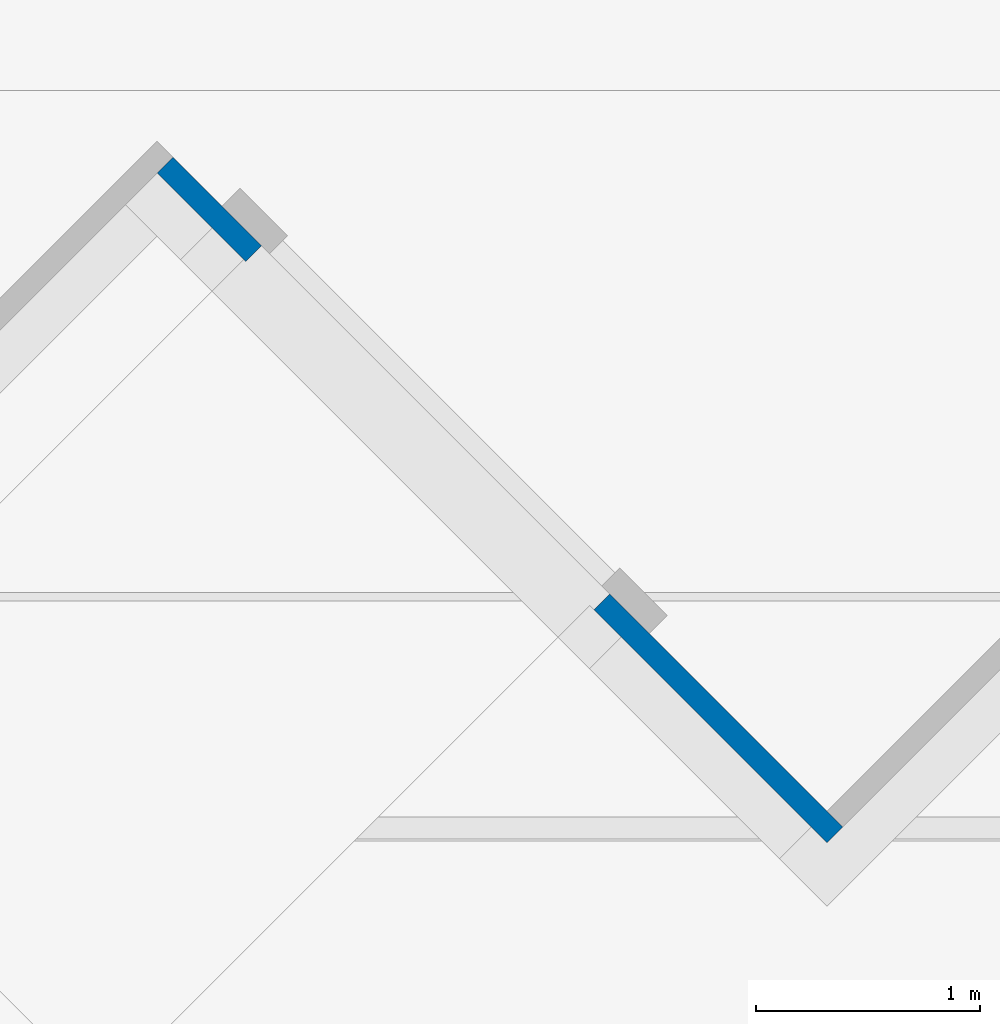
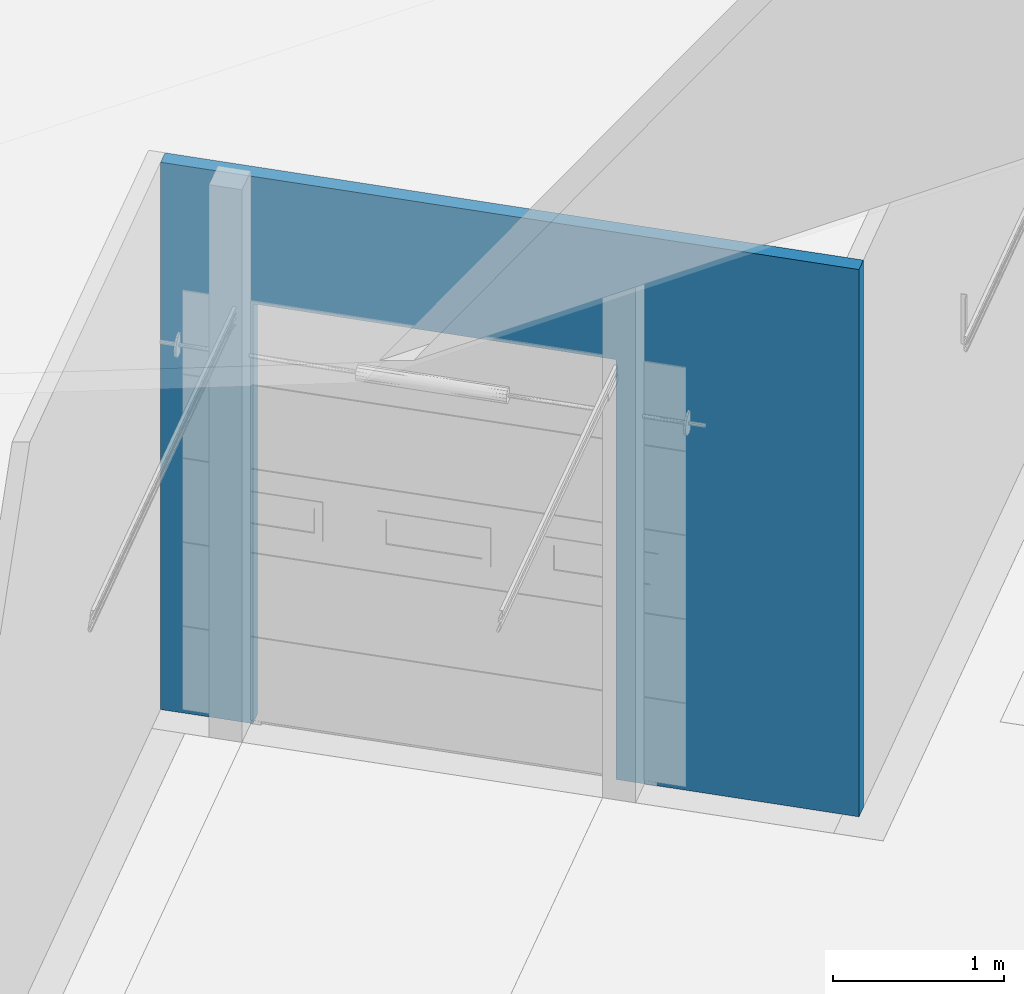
# One storey, part 32 of 64: 1 wall, 1 opening.
"""IFC2X3 building model written with IfcOpenShell, lengths in millimetres."""

import ifcopenshell
import ifcopenshell.guid

model = None  # the IFC model being written
_history = None  # IfcOwnerHistory: only IFC2X3 demands one
_inside = {}  # id of a spatial element -> (the spatial element, [elements in it])
_under = {}  # id of a project, library or spatial element -> (it, [spatial elements below it])
_declared = {}  # id of a project -> (the project, [libraries it declares])
_typed = {}  # id of a type object -> (the type object, [elements of that type])
_made_of = {}  # id of a material, layer set ... -> (it, [elements and type objects made of it])


def new_model(schema):
    """Start an empty IFC model of exactly this schema.

    Asked for "IFC4X3", IfcOpenShell would pick the latest addendum, in which some entities
    have other attributes; the version numbers below select the first issue.
    IFC2X3 requires an IfcOwnerHistory on every rooted entity: one is made here for all.
    """
    global model, _history
    if schema == "IFC4X3":
        model = ifcopenshell.file(schema_version=(4, 3, 0, 0))
    else:
        model = ifcopenshell.file(schema=schema)
    _inside.clear()
    _under.clear()
    _declared.clear()
    _typed.clear()
    _made_of.clear()
    _history = None
    if model.schema == "IFC2X3":
        org = make("IfcOrganization", Name="unknown")
        user = make(
            "IfcPersonAndOrganization",
            ThePerson=make("IfcPerson", FamilyName="unknown"),
            TheOrganization=org,
        )
        app = make(
            "IfcApplication",
            ApplicationDeveloper=org,
            Version="unknown",
            ApplicationFullName="unknown",
            ApplicationIdentifier="unknown",
        )
        _history = make(
            "IfcOwnerHistory",
            OwningUser=user,
            OwningApplication=app,
            ChangeAction="ADDED",
            CreationDate=0,
        )
    return model


def make(cls, **values):
    """One entity of the class cls with the attributes given. An attribute that is None is left unset."""
    return model.create_entity(
        cls, **{name: value for name, value in values.items() if value is not None}
    )


def entity(cls, *values):
    """Any entity or typed value of the class cls, its attributes in the order of the schema. None: left unset."""
    e = model.create_entity(cls)
    for i, value in enumerate(values):
        if value is not None:
            e[i] = value
    return e


def rooted(cls, **values):
    """An entity with a GlobalId (a new one), such as an element, a storey or a relation."""
    return make(cls, GlobalId=ifcopenshell.guid.new(), OwnerHistory=_history, **values)


def si_unit(unit_type, name, prefix=None):
    """IfcSIUnit, for example si_unit("LENGTHUNIT", "METRE", prefix="MILLI")."""
    return make("IfcSIUnit", UnitType=unit_type, Prefix=prefix, Name=name)


def converted_unit(unit_type, name, factor, base, dimensions=None, offset=None):
    """IfcConversionBasedUnit, such as the inch: factor (a typed value) times the base unit."""
    return make(
        "IfcConversionBasedUnit"
        if offset is None
        else "IfcConversionBasedUnitWithOffset",
        ConversionOffset=offset,
        Dimensions=None
        if dimensions is None
        else entity("IfcDimensionalExponents", *dimensions),
        UnitType=unit_type,
        Name=name,
        ConversionFactor=make(
            "IfcMeasureWithUnit", ValueComponent=factor, UnitComponent=base
        ),
    )


def derived_unit(unit_type, elements):
    """IfcDerivedUnit: a product of units, each with its exponent."""
    return make(
        "IfcDerivedUnit",
        Elements=[
            make("IfcDerivedUnitElement", Unit=unit, Exponent=power)
            for unit, power in elements
        ],
        UnitType=unit_type,
    )


def assignment(units):
    """IfcUnitAssignment: the units of a project."""
    return None if units is None else make("IfcUnitAssignment", Units=units)


def point(xyz):
    """IfcCartesianPoint."""
    return None if xyz is None else make("IfcCartesianPoint", Coordinates=xyz)


def direction(xyz):
    """IfcDirection."""
    return None if xyz is None else make("IfcDirection", DirectionRatios=xyz)


def frame(location, z_axis=None, x_axis=None):
    """IfcAxis2Placement3D, a coordinate frame: its origin and axes. An axis left out is left unset."""
    return make(
        "IfcAxis2Placement3D",
        Location=point(location),
        Axis=direction(z_axis),
        RefDirection=direction(x_axis),
    )


def frame_2d(location, x_axis=None):
    """IfcAxis2Placement2D, a coordinate frame in the plane: its origin and x axis."""
    return make(
        "IfcAxis2Placement2D", Location=point(location), RefDirection=direction(x_axis)
    )


def origin():
    """The frame at (0, 0, 0) with its axes left unset."""
    return frame((0.0, 0.0, 0.0))


def place(relative_to, where):
    """IfcLocalPlacement: puts the frame where relative to a parent placement (None: the world)."""
    return make(
        "IfcLocalPlacement", PlacementRelTo=relative_to, RelativePlacement=where
    )


def context(
    kind, dimensions, precision=None, world=None, true_north=None, identifier=None
):
    """IfcGeometricRepresentationContext, for example the 3D "Model" context."""
    return make(
        "IfcGeometricRepresentationContext",
        ContextIdentifier=identifier,
        ContextType=kind,
        CoordinateSpaceDimension=dimensions,
        Precision=precision,
        WorldCoordinateSystem=world,
        TrueNorth=true_north,
    )


def subcontext(parent, identifier, kind, view, scale=None):
    """IfcGeometricRepresentationSubContext, for example "Body" below "Model"."""
    return make(
        "IfcGeometricRepresentationSubContext",
        ContextIdentifier=identifier,
        ContextType=kind,
        ParentContext=parent,
        TargetScale=scale,
        TargetView=view,
    )


def project(units=None, contexts=None):
    """IfcProject with its units and contexts."""
    return rooted(
        "IfcProject",
        Name="project",
        RepresentationContexts=contexts,
        UnitsInContext=assignment(units),
    )


def spatial(cls, under=None, at=None, **own):
    """A site, building, storey or space (cls), placed at a placement, below another one or the project."""
    s = rooted(cls, ObjectPlacement=at, **own)
    if under is not None:
        _under.setdefault(under.id(), (under, []))[1].append(s)
    return s


def profile(cls, at=None, kind="AREA", **sizes):
    """A parametric profile (cls). Its sizes go by their IFC names, for example OverallWidth=200.0."""
    return make(cls, ProfileType=kind, Position=at, **sizes)


def rectangle(**sizes):
    """IfcRectangleProfileDef."""
    return profile("IfcRectangleProfileDef", **sizes)


def extrude(swept, where, along, depth):
    """IfcExtrudedAreaSolid: the profile swept, set in the frame where, extruded along a direction by depth."""
    return make(
        "IfcExtrudedAreaSolid",
        SweptArea=swept,
        Position=where,
        ExtrudedDirection=direction(along),
        Depth=depth,
    )


def shape(context_of_items, identifier, shape_type, items):
    """IfcShapeRepresentation: the items that make up one representation, for example the "Body"."""
    return make(
        "IfcShapeRepresentation",
        ContextOfItems=context_of_items,
        RepresentationIdentifier=identifier,
        RepresentationType=shape_type,
        Items=items,
    )


def material(Name=None, Category=None):
    """IfcMaterial."""
    return make("IfcMaterial", Name=Name, Category=Category)


def layer(
    of_material, thickness, ventilated=None, Name=None, Category=None, Priority=None
):
    """IfcMaterialLayer: one layer of a wall or slab, of a material (None: an air gap)."""
    return make(
        "IfcMaterialLayer",
        Material=of_material,
        LayerThickness=thickness,
        IsVentilated=ventilated,
        Name=Name,
        Category=Category,
        Priority=Priority,
    )


def layer_set(layers, Name=None):
    """IfcMaterialLayerSet."""
    return make("IfcMaterialLayerSet", MaterialLayers=layers, LayerSetName=Name)


def layer_usage(for_layer_set, set_direction, sense, offset, extent=None):
    """IfcMaterialLayerSetUsage: how a layer set lies in its element."""
    return make(
        "IfcMaterialLayerSetUsage",
        ForLayerSet=for_layer_set,
        LayerSetDirection=set_direction,
        DirectionSense=sense,
        OffsetFromReferenceLine=offset,
        ReferenceExtent=extent,
    )


def made_of(thing, what):
    """Note that an element or type object is made of a material, layer set ...; save() writes the relation."""
    if what is not None:
        _made_of.setdefault(what.id(), (what, []))[1].append(thing)
    return thing


def type_object(cls, material=None, **own):
    """A type object (cls), such as IfcWallType, which elements share."""
    return made_of(rooted(cls, **own), material)


def element(
    cls,
    number,
    at=None,
    inside=None,
    cuts=None,
    type_object=None,
    material=None,
    context=None,
    identifier="Body",
    shape_type=None,
    held_by="IfcProductDefinitionShape",
    body=None,
    shapes=None,
    **own,
):
    """One element of the class cls, such as IfcWall. Its Tag is "e" and its number.

    at: its placement. inside: the storey or other place that contains it. cuts: it is an
    opening in that element (IfcRelVoidsElement). A single representation is given by context,
    identifier, shape_type and body (its items); several are given by shapes. held_by: the class
    of the entity that holds the representations. save() writes the other relations.
    """
    e = rooted(cls, Tag="e%d" % number, ObjectPlacement=at, **own)
    if body is not None:
        shapes = [shape(context, identifier, shape_type, body)]
    if shapes is not None:
        e.Representation = make(held_by, Representations=shapes)
    if inside is not None:
        _inside.setdefault(inside.id(), (inside, []))[1].append(e)
    if cuts is not None:
        rooted(
            "IfcRelVoidsElement", RelatingBuildingElement=cuts, RelatedOpeningElement=e
        )
    if type_object is not None:
        _typed.setdefault(type_object.id(), (type_object, []))[1].append(e)
    return made_of(e, material)


def aggregate(whole, parts):
    """IfcRelAggregates: a whole, such as a stair, and the parts it consists of."""
    return rooted("IfcRelAggregates", RelatingObject=whole, RelatedObjects=parts)


def save(model, path):
    """Write the relations noted so far, then the file.

    IfcRelAggregates (storeys below a building ...), IfcRelContainedInSpatialStructure (elements
    in a storey), IfcRelDefinesByType, IfcRelAssociatesMaterial and IfcRelDeclares: one each for
    every whole, place, type object, material and project.
    """
    for whole, parts in _under.values():
        aggregate(whole, parts)
    for where, things in _inside.values():
        rooted(
            "IfcRelContainedInSpatialStructure",
            RelatedElements=things,
            RelatingStructure=where,
        )
    for kind, things in _typed.values():
        rooted("IfcRelDefinesByType", RelatedObjects=things, RelatingType=kind)
    for what, things in _made_of.values():
        rooted("IfcRelAssociatesMaterial", RelatedObjects=things, RelatingMaterial=what)
    for by, libraries in _declared.values():
        rooted("IfcRelDeclares", RelatingContext=by, RelatedDefinitions=libraries)
    model.write(path)


model = new_model("IFC2X3")

# Units and contexts
model_context = context("Model", 3, precision=0.01, world=origin(), true_north=direction((4.05803320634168e-15, -1.0)))
body_context = subcontext(model_context, "Body", "Model", "MODEL_VIEW")
ifc_project = project(units=[si_unit("LENGTHUNIT", "METRE", prefix="MILLI"), si_unit("AREAUNIT", "SQUARE_METRE"), si_unit("VOLUMEUNIT", "CUBIC_METRE"), converted_unit("PLANEANGLEUNIT", "DEGREE", entity("IfcRatioMeasure", 0.0174532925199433), si_unit("PLANEANGLEUNIT", "RADIAN"), dimensions=[0, 0, 0, 0, 0, 0, 0]), si_unit("MASSUNIT", "GRAM", prefix="KILO"), derived_unit("MASSDENSITYUNIT", [(si_unit("MASSUNIT", "GRAM", prefix="KILO"), 1), (si_unit("LENGTHUNIT", "METRE"), -3)]), si_unit("TIMEUNIT", "SECOND"), si_unit("FREQUENCYUNIT", "HERTZ"), si_unit("THERMODYNAMICTEMPERATUREUNIT", "DEGREE_CELSIUS"), derived_unit("THERMALTRANSMITTANCEUNIT", [(si_unit("MASSUNIT", "GRAM", prefix="KILO"), 1), (si_unit("THERMODYNAMICTEMPERATUREUNIT", "KELVIN"), -1), (si_unit("TIMEUNIT", "SECOND"), -3)]), derived_unit("VOLUMETRICFLOWRATEUNIT", [(si_unit("LENGTHUNIT", "METRE"), 3), (si_unit("TIMEUNIT", "SECOND"), -1)]), si_unit("ELECTRICCURRENTUNIT", "AMPERE"), si_unit("ELECTRICVOLTAGEUNIT", "VOLT"), si_unit("POWERUNIT", "WATT"), si_unit("FORCEUNIT", "NEWTON", prefix="KILO"), si_unit("ILLUMINANCEUNIT", "LUX"), si_unit("LUMINOUSFLUXUNIT", "LUMEN"), si_unit("LUMINOUSINTENSITYUNIT", "CANDELA"), derived_unit("USERDEFINED", [(si_unit("MASSUNIT", "GRAM", prefix="KILO"), -1), (si_unit("LENGTHUNIT", "METRE"), -2), (si_unit("TIMEUNIT", "SECOND"), 3), (si_unit("LUMINOUSFLUXUNIT", "LUMEN"), 1)]), derived_unit("LINEARVELOCITYUNIT", [(si_unit("LENGTHUNIT", "METRE"), 1), (si_unit("TIMEUNIT", "SECOND"), -1)]), si_unit("PRESSUREUNIT", "PASCAL"), derived_unit("USERDEFINED", [(si_unit("LENGTHUNIT", "METRE"), -2), (si_unit("MASSUNIT", "GRAM", prefix="KILO"), 1), (si_unit("TIMEUNIT", "SECOND"), -2)])], contexts=[model_context])

# Site, building, storey
site_placement = place(None, frame((927466.849349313, 583801.882853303, 0.0), z_axis=(0.0, 0.0, 1.0), x_axis=(-1.0, 0.0, 0.0)))
site = spatial("IfcSite", under=ifc_project, at=site_placement, Name="Surface", CompositionType="ELEMENT")
building_placement = place(site_placement, origin())
building = spatial("IfcBuilding", under=site, at=building_placement, CompositionType="ELEMENT")
storey_placement = place(building_placement, frame((0.0, 0.0, 44170.0)))
storey = spatial("IfcBuildingStorey", under=building, at=storey_placement, Name="Ground FFL", CompositionType="ELEMENT", Elevation=44170.0)

# Wall, opening
ifc_material = material(Name="Isopenal")
ifc_layer = layer(ifc_material, 100.0)
ifc_layer_set = layer_set([ifc_layer], Name="Basic Wall:Isopanel")
ifc_layer_usage = layer_usage(ifc_layer_set, "AXIS2", "POSITIVE", -50.0)
wall_type = type_object("IfcWallType", Name="Basic Wall:Isopanel", PredefinedType="STANDARD", material=ifc_layer_set)
wall_placement = place(storey_placement, frame((-75099.1605518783, -30575.5946140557, 0.0), z_axis=(0.0, 0.0, 1.0), x_axis=(0.707106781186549, -0.707106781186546, 0.0)))
wall = element("IfcWallStandardCase", 1, at=wall_placement, inside=storey, type_object=wall_type, material=ifc_layer_usage, Name="Basic Wall:Isopanel", ObjectType="Basic Wall:Isopanel", context=body_context, shape_type="SweptSolid", body=[
    extrude(rectangle(XDim=4232.26267936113, YDim=100.000000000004, at=frame_2d((2116.13133968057, -7.60280727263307e-13), x_axis=(-1.0, 0.0))), origin(), (0.0, 0.0, 1.0), 3910.35154955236),
])
opening_placement = place(wall_placement, frame((1472.26267936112, -50.0, 0.0)))
element("IfcOpeningElement", 2, at=opening_placement, cuts=wall, Name="6m_Roller Shutter Doors:3000(w) x 3000(h):1", ObjectType="Opening", context=body_context, shape_type="SweptSolid", body=[
    extrude(rectangle(XDim=3000.0, YDim=2200.0, at=frame_2d((1500.0, 1100.0), x_axis=(1.0, 0.0))), frame((0.0, 0.0, 0.0), z_axis=(0.0, 1.0, 0.0), x_axis=(0.0, 0.0, 1.0)), (0.0, 0.0, 1.0), 100.0),
])

save(model, "model.ifc")
